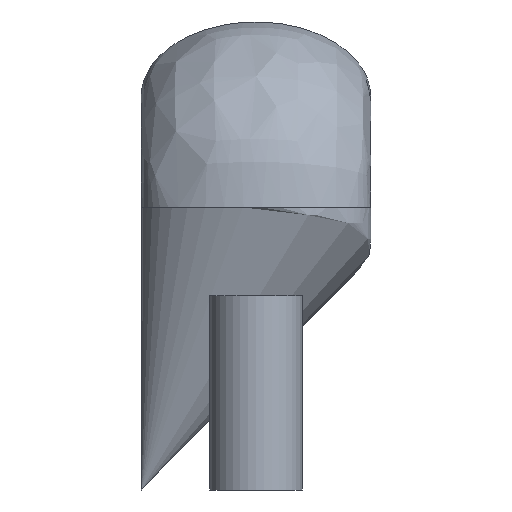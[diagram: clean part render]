
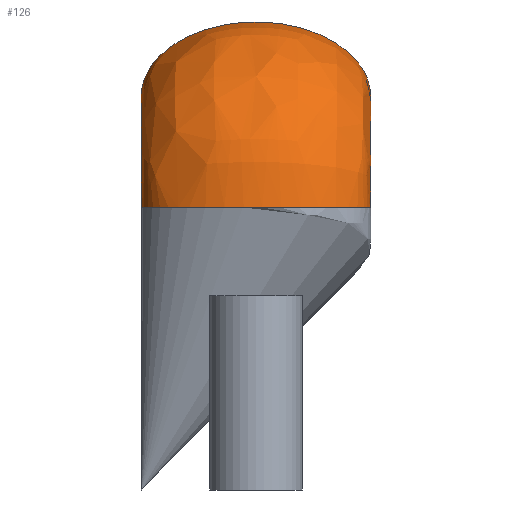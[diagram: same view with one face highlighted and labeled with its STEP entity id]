
A CAD part, left-side view. The second image highlights one B-rep face of the part: STEP entity #126.
In plain terms, the highlighted free-form (B-spline) face has degree [2, 2] with [9, 3] control points.
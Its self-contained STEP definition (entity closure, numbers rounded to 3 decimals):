
#41=CARTESIAN_POINT('',(0.,13.,32.));
#42=VERTEX_POINT('',#41);
#58=CARTESIAN_POINT('',(0.,13.,32.));
#59=CARTESIAN_POINT('',(-8.5,13.,32.));
#60=CARTESIAN_POINT('',(-8.5,0.,32.));
#61=CARTESIAN_POINT('',(-8.5,-13.,32.));
#62=CARTESIAN_POINT('',(0.,-13.,32.));
#63=CARTESIAN_POINT('',(8.5,-13.,32.));
#64=CARTESIAN_POINT('',(8.5,0.,32.));
#65=CARTESIAN_POINT('',(8.5,13.,32.));
#66=CARTESIAN_POINT('',(0.,13.,32.));
#67=(BOUNDED_CURVE()B_SPLINE_CURVE(2,(#58,#59,#60,#61,#62,#63,#64,#65,#66),.UNSPECIFIED.,.T.,.U.)B_SPLINE_CURVE_WITH_KNOTS((3,2,2,2,3),(0.,0.25,0.5,0.75,1.),.UNSPECIFIED.)CURVE()GEOMETRIC_REPRESENTATION_ITEM()RATIONAL_B_SPLINE_CURVE((1.,0.707,1.,0.707,1.,0.707,1.,0.707,1.))REPRESENTATION_ITEM(''));
#68=EDGE_CURVE('',#42,#42,#67,.T.);
#73=CARTESIAN_POINT('',(0.,13.,32.));
#74=CARTESIAN_POINT('',(0.,13.,44.5));
#75=CARTESIAN_POINT('',(12.5,13.,44.5));
#76=CARTESIAN_POINT('',(-8.5,13.,32.));
#77=CARTESIAN_POINT('',(-8.5,13.,53.));
#78=CARTESIAN_POINT('',(12.5,13.,53.));
#79=CARTESIAN_POINT('',(-8.5,0.,32.));
#80=CARTESIAN_POINT('',(-8.5,0.,53.));
#81=CARTESIAN_POINT('',(12.5,0.,53.));
#82=CARTESIAN_POINT('',(-8.5,-13.,32.));
#83=CARTESIAN_POINT('',(-8.5,-13.,53.));
#84=CARTESIAN_POINT('',(12.5,-13.,53.));
#85=CARTESIAN_POINT('',(0.,-13.,32.));
#86=CARTESIAN_POINT('',(0.,-13.,44.5));
#87=CARTESIAN_POINT('',(12.5,-13.,44.5));
#88=CARTESIAN_POINT('',(8.5,-13.,32.));
#89=CARTESIAN_POINT('',(8.5,-13.,36.));
#90=CARTESIAN_POINT('',(12.5,-13.,36.));
#91=CARTESIAN_POINT('',(8.5,0.,32.));
#92=CARTESIAN_POINT('',(8.5,0.,36.));
#93=CARTESIAN_POINT('',(12.5,0.,36.));
#94=CARTESIAN_POINT('',(8.5,13.,32.));
#95=CARTESIAN_POINT('',(8.5,13.,36.));
#96=CARTESIAN_POINT('',(12.5,13.,36.));
#97=CARTESIAN_POINT('',(0.,13.,32.));
#98=CARTESIAN_POINT('',(0.,13.,44.5));
#99=CARTESIAN_POINT('',(12.5,13.,44.5));
#100=(BOUNDED_SURFACE()B_SPLINE_SURFACE(2,2,((#73,#74,#75),(#76,#77,#78),(#79,#80,#81),(#82,#83,#84),(#85,#86,#87),(#88,#89,#90),(#91,#92,#93),(#94,#95,#96),(#97,#98,#99)),.UNSPECIFIED.,.T.,.F.,.U.)B_SPLINE_SURFACE_WITH_KNOTS((3,2,2,2,3),(3,3),(0.,0.25,0.5,0.75,1.),(0.,1.),.UNSPECIFIED.)GEOMETRIC_REPRESENTATION_ITEM()RATIONAL_B_SPLINE_SURFACE(((1.,0.707,1.),(0.707,0.5,0.707),(1.,0.707,1.),(0.707,0.5,0.707),(1.,0.707,1.),(0.707,0.5,0.707),(1.,0.707,1.),(0.707,0.5,0.707),(1.,0.707,1.)))REPRESENTATION_ITEM('')SURFACE());
#101=CARTESIAN_POINT('',(12.5,13.,44.5));
#102=VERTEX_POINT('',#101);
#103=CARTESIAN_POINT('',(12.5,13.,32.));
#104=DIRECTION('',(-1.,0.,0.));
#105=DIRECTION('',(0.,1.,0.));
#106=AXIS2_PLACEMENT_3D('',#103,#105,#104);
#107=CIRCLE('',#106,12.5);
#108=EDGE_CURVE('',#42,#102,#107,.T.);
#109=ORIENTED_EDGE('E5',*,*,#108,.F.);
#110=ORIENTED_EDGE('E5',*,*,#68,.T.);
#111=ORIENTED_EDGE('E5',*,*,#108,.T.);
#112=CARTESIAN_POINT('',(12.5,13.,44.5));
#113=CARTESIAN_POINT('',(12.5,13.,53.));
#114=CARTESIAN_POINT('',(12.5,0.,53.));
#115=CARTESIAN_POINT('',(12.5,-13.,53.));
#116=CARTESIAN_POINT('',(12.5,-13.,44.5));
#117=CARTESIAN_POINT('',(12.5,-13.,36.));
#118=CARTESIAN_POINT('',(12.5,0.,36.));
#119=CARTESIAN_POINT('',(12.5,13.,36.));
#120=CARTESIAN_POINT('',(12.5,13.,44.5));
#121=(BOUNDED_CURVE()B_SPLINE_CURVE(2,(#112,#113,#114,#115,#116,#117,#118,#119,#120),.UNSPECIFIED.,.T.,.U.)B_SPLINE_CURVE_WITH_KNOTS((3,2,2,2,3),(0.,0.25,0.5,0.75,1.),.UNSPECIFIED.)CURVE()GEOMETRIC_REPRESENTATION_ITEM()RATIONAL_B_SPLINE_CURVE((1.,0.707,1.,0.707,1.,0.707,1.,0.707,1.))REPRESENTATION_ITEM(''));
#122=EDGE_CURVE('',#102,#102,#121,.T.);
#123=ORIENTED_EDGE('E6',*,*,#122,.F.);
#124=EDGE_LOOP('',(#109,#110,#111,#123));
#125=FACE_OUTER_BOUND('',#124,.T.);
#126=ADVANCED_FACE('F4',(#125),#100,.T.);
